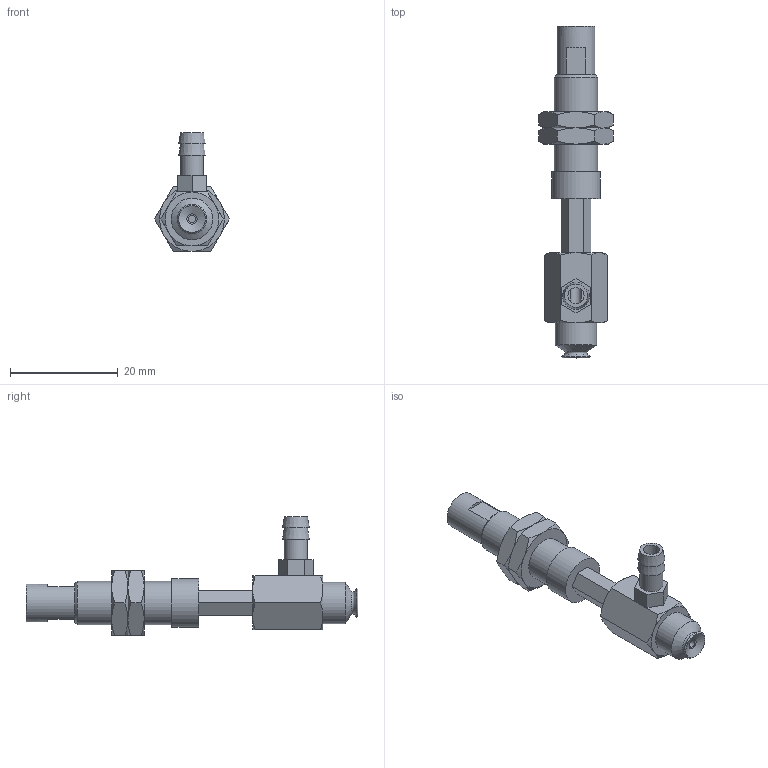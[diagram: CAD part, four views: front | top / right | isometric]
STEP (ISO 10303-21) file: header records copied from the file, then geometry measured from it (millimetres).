
FILE_DESCRIPTION(('STEP AP203'),'1');
FILE_NAME('-T.stp','2025-04-10T02:45:25',(' '),(' '),'Spatial InterOp 3D',' ',' ');
FILE_SCHEMA(('CONFIG_CONTROL_DESIGN'));
Length unit declared in the file: millimetre
Products named in the file (7): BNABPFYH-5A-10-※-T; CONNECTOR-H-5A-10; Nut-5A-10-h; NAPFTH-5A-10-FBODY; NAPFTH-5A-10-MBODY; BPFG-5A-※; T
Assembly tree (7 placements, depth 2):
  BNABPFYH-5A-10-※-T
    CONNECTOR-H-5A-10
    Nut-5A-10-h  x2
    NAPFTH-5A-10-FBODY
    NAPFTH-5A-10-MBODY
    BPFG-5A-※
    T
Bounding box: 13.86 x 61.5 x 22 mm (x, y, z)
Volume: 3546.6 mm3; surface area: 4492.3 mm2
Topology: 7 solids, 7 shells, 156 faces, 335 edges, 205 vertices
Faces by surface type: plane 74, cone 54, cylinder 18, torus 9, bspline 1
Full cylindrical faces by diameter (mm): 1.4 x1, 2 x1, 3 x1, 4 x2, 4.134 x2, 4.3 x1, 5 x2, 6 x2, 7 x1, 7.188 x2, 7.7 x1, 8 x1, 9 x1
Entity records: 3929 total; most frequent: CARTESIAN_POINT 922, DIRECTION 552, ORIENTED_EDGE 474, EDGE_CURVE 237, AXIS2_PLACEMENT_3D 229, EDGE_LOOP 198, VERTEX_POINT 169, FACE_OUTER_BOUND 160
